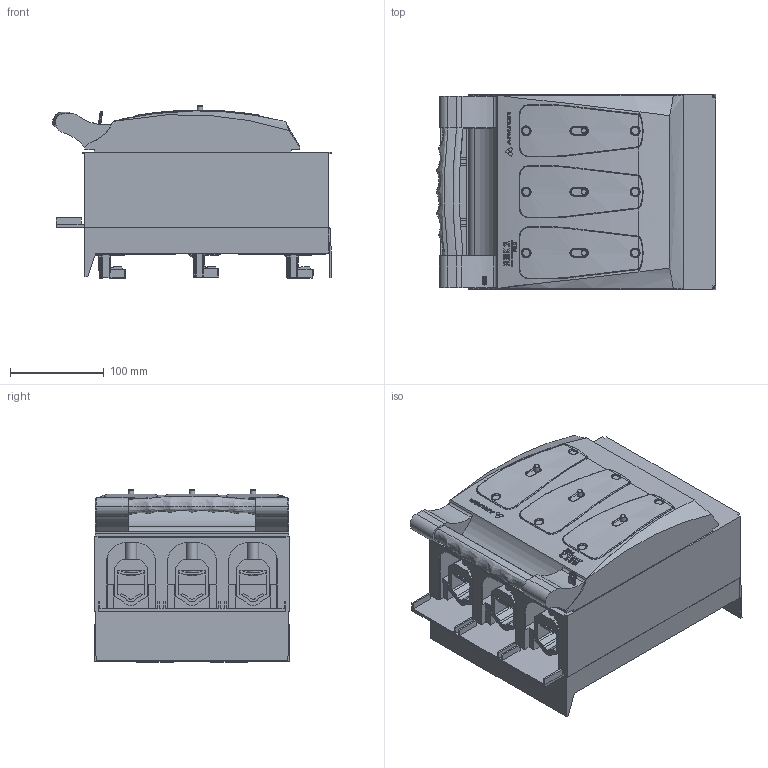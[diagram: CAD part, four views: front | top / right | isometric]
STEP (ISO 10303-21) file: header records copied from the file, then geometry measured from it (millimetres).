
FILE_DESCRIPTION(/* description */ (''),/* implementation_level */ '2;1');
FILE_NAME(/* name */ 'RBK 2 pro-SG-V 100.stp',/* time_stamp */ '2020-09-30T09:40:16+02:00',/* author */ (''),/* organization */ (''),/* preprocessor_version */ 'ST-DEVELOPER v16',/* originating_system */ 'SIEMENS PLM Software NX 10.0',/* authorisation */ '');
FILE_SCHEMA (('AUTOMOTIVE_DESIGN { 1 0 10303 214 3 1 1 1 }'));
Products named in the file (1): 710_2CE077B1gmct
Bounding box: 297.76 x 208 x 184.12 mm (x, y, z)
Volume: 7158769.6 mm3; surface area: 423738.3 mm2
Topology: 1 solids, 6 shells, 2171 faces, 5921 edges, 3743 vertices
Faces by surface type: plane 1292, cylinder 391, bspline 325, extrusion 95, sphere 43, torus 16, cone 9
Full cylindrical faces by diameter (mm): 6 x3
Entity records: 81200 total; most frequent: CARTESIAN_POINT 27980, ORIENTED_EDGE 11610, DIRECTION 10669, EDGE_CURVE 5805, AXIS2_PLACEMENT_3D 3829, VERTEX_POINT 3724, VECTOR 3011, LINE 2916
